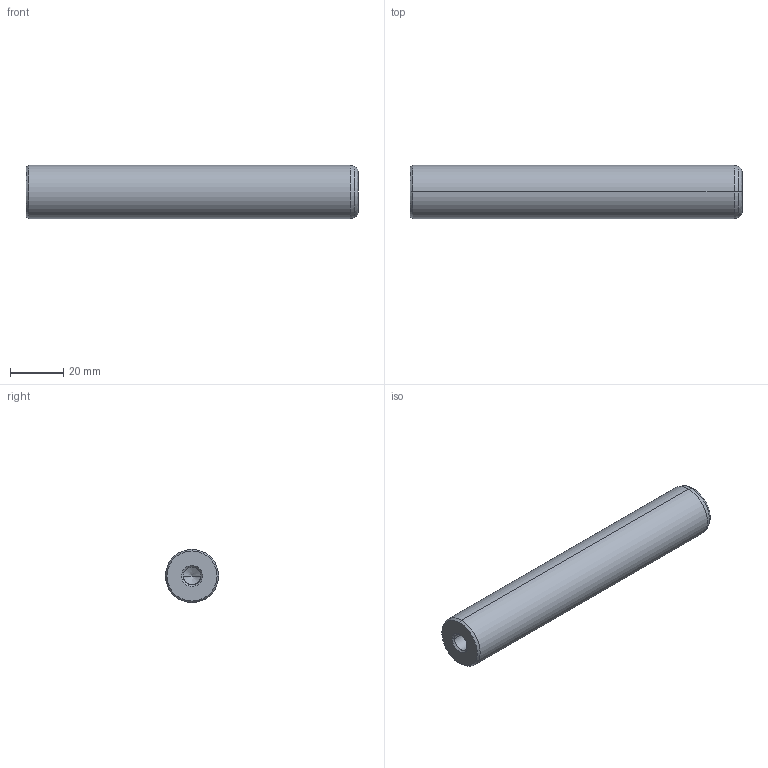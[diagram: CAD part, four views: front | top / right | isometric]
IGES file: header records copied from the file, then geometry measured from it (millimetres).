
Start section: START RECORD GO HERE.
Global section: file name: 720-20x125.igs; native system: DASSAULT SYSTEMES CATIA V5 R20 - www.3ds.com; preprocessor: CATIA Version 5 Release 20 ; author: Utente; organization: NB04-ASUS; date: 20210101.140137; units: millimetre
Bounding box: 125 x 20 x 20 mm (x, y, z)
Surface area: 9375.5 mm2 (no closed solid volume)
Topology: 0 solids, 0 shells, 22 faces, 120 edges, 116 vertices
Faces by surface type: revolution 20, plane 2
